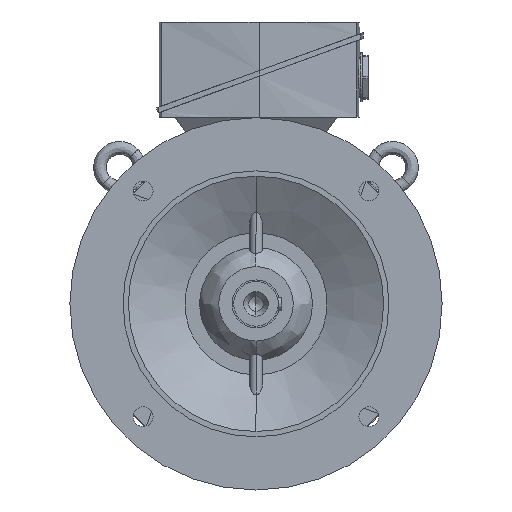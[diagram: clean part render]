
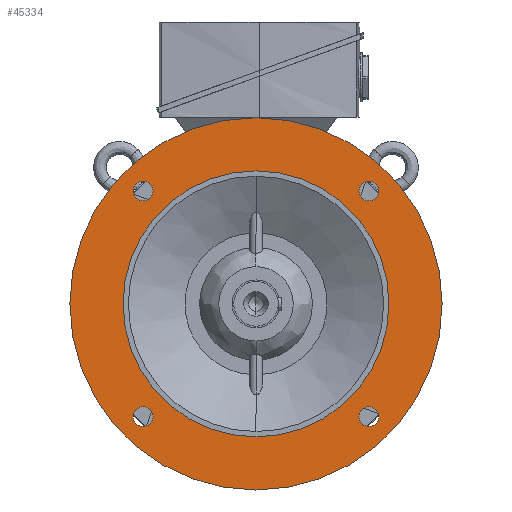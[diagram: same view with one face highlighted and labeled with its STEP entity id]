
A CAD part, left-side view. The second image highlights one B-rep face of the part: STEP entity #45334.
In plain terms, the highlighted planar face has unit normal (-1, 0, 0).
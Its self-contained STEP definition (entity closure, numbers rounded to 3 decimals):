
#74 = DIRECTION ( 'NONE',  ( 0., 0., -1. ) ) ;
#106 = DIRECTION ( 'NONE',  ( 1., 0., 0. ) ) ;
#112 = CARTESIAN_POINT ( 'NONE',  ( -80., -106.066, 106.066 ) ) ;
#248 = DIRECTION ( 'NONE',  ( 0., 0., -1. ) ) ;
#292 = DIRECTION ( 'NONE',  ( 1., 0., 0. ) ) ;
#354 = CARTESIAN_POINT ( 'NONE',  ( -80., 106.066, 106.066 ) ) ;
#1022 = EDGE_CURVE ( 'NONE', #12036, #45428, #24715, .T. ) ;
#1965 = CARTESIAN_POINT ( 'NONE',  ( -80., -106.066, -115.316 ) ) ;
#2157 = VERTEX_POINT ( 'NONE', #46539 ) ;
#5519 = AXIS2_PLACEMENT_3D ( 'NONE', #35125, #35042, #34977 ) ;
#6529 = DIRECTION ( 'NONE',  ( 0., 0., 1. ) ) ;
#6550 = CARTESIAN_POINT ( 'NONE',  ( -80., -106.066, -106.066 ) ) ;
#6629 = DIRECTION ( 'NONE',  ( 1., 0., 0. ) ) ;
#6652 = DIRECTION ( 'NONE',  ( 1., 0., 0. ) ) ;
#6683 = CARTESIAN_POINT ( 'NONE',  ( -80., 0., 0. ) ) ;
#6755 = DIRECTION ( 'NONE',  ( 0., 0., -1. ) ) ;
#6791 = CIRCLE ( 'NONE', #29383, 9.25 ) ;
#7452 = VERTEX_POINT ( 'NONE', #47131 ) ;
#7590 = ORIENTED_EDGE ( 'NONE', *, *, #1022, .T. ) ;
#9201 = EDGE_CURVE ( 'NONE', #45428, #12036, #18210, .T. ) ;
#9630 = ORIENTED_EDGE ( 'NONE', *, *, #9201, .T. ) ;
#11416 = CARTESIAN_POINT ( 'NONE',  ( -80., 106.066, 115.316 ) ) ;
#11704 = VERTEX_POINT ( 'NONE', #22415 ) ;
#11761 = CIRCLE ( 'NONE', #43913, 175. ) ;
#11919 = ORIENTED_EDGE ( 'NONE', *, *, #41689, .T. ) ;
#12036 = VERTEX_POINT ( 'NONE', #16182 ) ;
#12541 = EDGE_LOOP ( 'NONE', ( #32560, #36357 ) ) ;
#13050 = EDGE_CURVE ( 'NONE', #32397, #19222, #17622, .T. ) ;
#14188 = DIRECTION ( 'NONE',  ( 0., 0., -1. ) ) ;
#14196 = DIRECTION ( 'NONE',  ( 1., 0., 0. ) ) ;
#14198 = CIRCLE ( 'NONE', #22680, 175. ) ;
#14229 = CARTESIAN_POINT ( 'NONE',  ( -80., 106.066, -106.066 ) ) ;
#15173 = ORIENTED_EDGE ( 'NONE', *, *, #34992, .T. ) ;
#16182 = CARTESIAN_POINT ( 'NONE',  ( -80., 106.066, -115.316 ) ) ;
#16682 = FACE_BOUND ( 'NONE', #12541, .T. ) ;
#17285 = EDGE_LOOP ( 'NONE', ( #39609, #47163 ) ) ;
#17622 = CIRCLE ( 'NONE', #18598, 9.25 ) ;
#17667 = ORIENTED_EDGE ( 'NONE', *, *, #32550, .F. ) ;
#17846 = AXIS2_PLACEMENT_3D ( 'NONE', #30918, #30757, #30699 ) ;
#18210 = CIRCLE ( 'NONE', #32814, 9.25 ) ;
#18598 = AXIS2_PLACEMENT_3D ( 'NONE', #112, #106, #74 ) ;
#18725 = CIRCLE ( 'NONE', #17846, 9.25 ) ;
#19222 = VERTEX_POINT ( 'NONE', #39495 ) ;
#19473 = EDGE_CURVE ( 'NONE', #19222, #32397, #6791, .T. ) ;
#20021 = ORIENTED_EDGE ( 'NONE', *, *, #34546, .F. ) ;
#21285 = VERTEX_POINT ( 'NONE', #44880 ) ;
#21590 = DIRECTION ( 'NONE',  ( 0., 0., 1. ) ) ;
#21686 = DIRECTION ( 'NONE',  ( 1., 0., 0. ) ) ;
#21792 = CARTESIAN_POINT ( 'NONE',  ( -80., 0., 0. ) ) ;
#22415 = CARTESIAN_POINT ( 'NONE',  ( -80., 0., 125. ) ) ;
#22661 = EDGE_LOOP ( 'NONE', ( #46457, #11919 ) ) ;
#22680 = AXIS2_PLACEMENT_3D ( 'NONE', #21792, #21686, #21590 ) ;
#24029 = EDGE_LOOP ( 'NONE', ( #7590, #9630 ) ) ;
#24715 = CIRCLE ( 'NONE', #28547, 9.25 ) ;
#25304 = VERTEX_POINT ( 'NONE', #47776 ) ;
#25317 = DIRECTION ( 'NONE',  ( 0., 0., 1. ) ) ;
#25372 = DIRECTION ( 'NONE',  ( 1., 0., 0. ) ) ;
#25403 = CARTESIAN_POINT ( 'NONE',  ( -80., 0., 0. ) ) ;
#27348 = CARTESIAN_POINT ( 'NONE',  ( -80., -106.066, 96.816 ) ) ;
#28259 = EDGE_CURVE ( 'NONE', #11704, #25304, #37573, .T. ) ;
#28390 = AXIS2_PLACEMENT_3D ( 'NONE', #29930, #29925, #29868 ) ;
#28448 = EDGE_CURVE ( 'NONE', #2157, #31531, #32766, .T. ) ;
#28547 = AXIS2_PLACEMENT_3D ( 'NONE', #43756, #37151, #38143 ) ;
#28933 = EDGE_LOOP ( 'NONE', ( #20021, #17667 ) ) ;
#29383 = AXIS2_PLACEMENT_3D ( 'NONE', #32671, #32639, #32568 ) ;
#29868 = DIRECTION ( 'NONE',  ( 0., 0., -1. ) ) ;
#29925 = DIRECTION ( 'NONE',  ( 1., 0., 0. ) ) ;
#29930 = CARTESIAN_POINT ( 'NONE',  ( -80., 106.066, 106.066 ) ) ;
#30699 = DIRECTION ( 'NONE',  ( 0., 0., -1. ) ) ;
#30757 = DIRECTION ( 'NONE',  ( 1., 0., 0. ) ) ;
#30906 = CIRCLE ( 'NONE', #46015, 125. ) ;
#30918 = CARTESIAN_POINT ( 'NONE',  ( -80., -106.066, -106.066 ) ) ;
#31239 = CARTESIAN_POINT ( 'NONE',  ( -80., 106.066, -96.816 ) ) ;
#31531 = VERTEX_POINT ( 'NONE', #11416 ) ;
#32397 = VERTEX_POINT ( 'NONE', #27348 ) ;
#32550 = EDGE_CURVE ( 'NONE', #7452, #21285, #14198, .T. ) ;
#32560 = ORIENTED_EDGE ( 'NONE', *, *, #28259, .T. ) ;
#32568 = DIRECTION ( 'NONE',  ( 0., 0., -1. ) ) ;
#32639 = DIRECTION ( 'NONE',  ( 1., 0., 0. ) ) ;
#32671 = CARTESIAN_POINT ( 'NONE',  ( -80., -106.066, 106.066 ) ) ;
#32766 = CIRCLE ( 'NONE', #33956, 9.25 ) ;
#32814 = AXIS2_PLACEMENT_3D ( 'NONE', #14229, #14196, #14188 ) ;
#33298 = EDGE_CURVE ( 'NONE', #40460, #46697, #37616, .T. ) ;
#33956 = AXIS2_PLACEMENT_3D ( 'NONE', #354, #292, #248 ) ;
#34546 = EDGE_CURVE ( 'NONE', #21285, #7452, #11761, .T. ) ;
#34865 = AXIS2_PLACEMENT_3D ( 'NONE', #6683, #6629, #6529 ) ;
#34977 = DIRECTION ( 'NONE',  ( 0., 0., 1. ) ) ;
#34992 = EDGE_CURVE ( 'NONE', #31531, #2157, #46248, .T. ) ;
#35042 = DIRECTION ( 'NONE',  ( -1., 0., 0. ) ) ;
#35053 = FACE_BOUND ( 'NONE', #17285, .T. ) ;
#35125 = CARTESIAN_POINT ( 'NONE',  ( -80., 150., 0. ) ) ;
#35136 = FACE_BOUND ( 'NONE', #24029, .T. ) ;
#35230 = FACE_OUTER_BOUND ( 'NONE', #28933, .T. ) ;
#35306 = FACE_BOUND ( 'NONE', #41840, .T. ) ;
#35346 = FACE_BOUND ( 'NONE', #22661, .T. ) ;
#35859 = PLANE ( 'NONE',  #5519 ) ;
#36357 = ORIENTED_EDGE ( 'NONE', *, *, #36793, .T. ) ;
#36793 = EDGE_CURVE ( 'NONE', #25304, #11704, #30906, .T. ) ;
#37151 = DIRECTION ( 'NONE',  ( 1., 0., 0. ) ) ;
#37573 = CIRCLE ( 'NONE', #34865, 125. ) ;
#37616 = CIRCLE ( 'NONE', #39433, 9.25 ) ;
#38143 = DIRECTION ( 'NONE',  ( 0., 0., -1. ) ) ;
#39433 = AXIS2_PLACEMENT_3D ( 'NONE', #6550, #6652, #6755 ) ;
#39495 = CARTESIAN_POINT ( 'NONE',  ( -80., -106.066, 115.316 ) ) ;
#39609 = ORIENTED_EDGE ( 'NONE', *, *, #13050, .T. ) ;
#40402 = ORIENTED_EDGE ( 'NONE', *, *, #28448, .T. ) ;
#40460 = VERTEX_POINT ( 'NONE', #1965 ) ;
#41689 = EDGE_CURVE ( 'NONE', #46697, #40460, #18725, .T. ) ;
#41799 = CARTESIAN_POINT ( 'NONE',  ( -80., -106.066, -96.816 ) ) ;
#41840 = EDGE_LOOP ( 'NONE', ( #40402, #15173 ) ) ;
#43756 = CARTESIAN_POINT ( 'NONE',  ( -80., 106.066, -106.066 ) ) ;
#43913 = AXIS2_PLACEMENT_3D ( 'NONE', #47701, #47642, #47533 ) ;
#44880 = CARTESIAN_POINT ( 'NONE',  ( -80., 0., 175. ) ) ;
#45334 = ADVANCED_FACE ( 'NONE', ( #16682, #35230, #35053, #35306, #35136, #35346 ), #35859, .T. ) ;
#45428 = VERTEX_POINT ( 'NONE', #31239 ) ;
#46015 = AXIS2_PLACEMENT_3D ( 'NONE', #25403, #25372, #25317 ) ;
#46248 = CIRCLE ( 'NONE', #28390, 9.25 ) ;
#46457 = ORIENTED_EDGE ( 'NONE', *, *, #33298, .T. ) ;
#46539 = CARTESIAN_POINT ( 'NONE',  ( -80., 106.066, 96.816 ) ) ;
#46697 = VERTEX_POINT ( 'NONE', #41799 ) ;
#47131 = CARTESIAN_POINT ( 'NONE',  ( -80., 0., -175. ) ) ;
#47163 = ORIENTED_EDGE ( 'NONE', *, *, #19473, .T. ) ;
#47533 = DIRECTION ( 'NONE',  ( 0., 0., 1. ) ) ;
#47642 = DIRECTION ( 'NONE',  ( 1., 0., 0. ) ) ;
#47701 = CARTESIAN_POINT ( 'NONE',  ( -80., 0., 0. ) ) ;
#47776 = CARTESIAN_POINT ( 'NONE',  ( -80., 0., -125. ) ) ;
